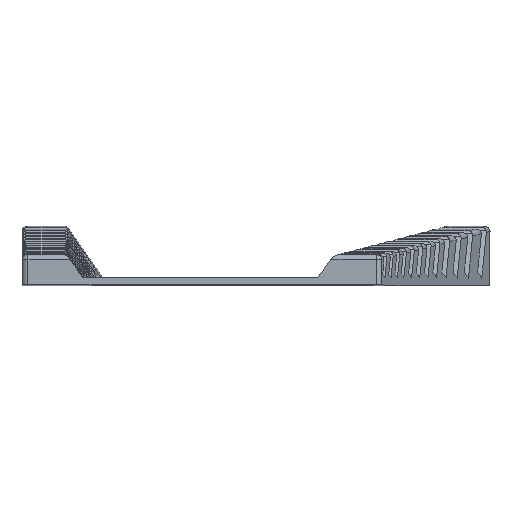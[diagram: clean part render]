
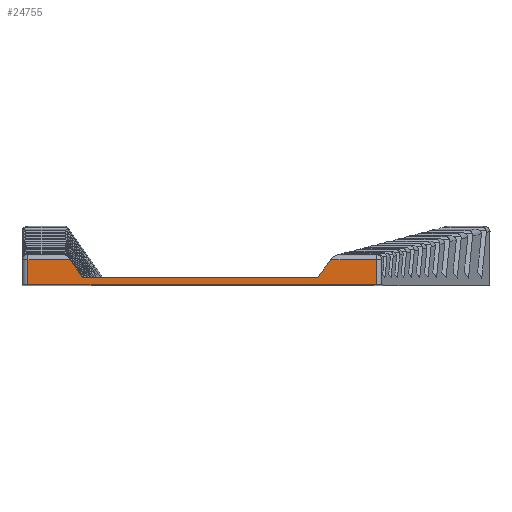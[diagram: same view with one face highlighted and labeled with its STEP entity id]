
A CAD part, top view. The second image highlights one B-rep face of the part: STEP entity #24755.
In plain terms, the highlighted planar face has unit normal (0, 0, 1).
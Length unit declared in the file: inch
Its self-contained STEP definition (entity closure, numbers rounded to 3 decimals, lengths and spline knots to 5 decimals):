
#1913 = CARTESIAN_POINT ( 'NONE',  ( 0., -0.0001, 0. ) ) ;
#2126 = CARTESIAN_POINT ( 'NONE',  ( 1.01195, 0.1249, 0. ) ) ;
#2167 = VERTEX_POINT ( 'NONE', #24743 ) ;
#2178 = LINE ( 'NONE', #3401, #8318 ) ;
#2319 = CARTESIAN_POINT ( 'NONE',  ( 3.12986, -2.32223, 0. ) ) ;
#2574 = LINE ( 'NONE', #8757, #5309 ) ;
#2601 = ORIENTED_EDGE ( 'NONE', *, *, #16054, .F. ) ;
#2779 = EDGE_CURVE ( 'NONE', #12289, #6669, #2178, .T. ) ;
#2903 = LINE ( 'NONE', #7034, #9884 ) ;
#3067 = CARTESIAN_POINT ( 'NONE',  ( 0., 0.1249, 0. ) ) ;
#3401 = CARTESIAN_POINT ( 'NONE',  ( 0.73884, 0.51593, 0. ) ) ;
#3455 = EDGE_CURVE ( 'NONE', #6669, #2167, #23735, .T. ) ;
#4527 = CARTESIAN_POINT ( 'NONE',  ( 0., 0.42546, 0. ) ) ;
#4980 = VERTEX_POINT ( 'NONE', #17688 ) ;
#5309 = VECTOR ( 'NONE', #19067, 39.37008 ) ;
#5968 = VECTOR ( 'NONE', #15945, 39.37008 ) ;
#6043 = DIRECTION ( 'NONE',  ( 0., 0., 1. ) ) ;
#6356 = ORIENTED_EDGE ( 'NONE', *, *, #14365, .T. ) ;
#6669 = VERTEX_POINT ( 'NONE', #2126 ) ;
#6957 = EDGE_CURVE ( 'NONE', #4980, #14312, #2574, .T. ) ;
#7034 = CARTESIAN_POINT ( 'NONE',  ( 0., -0.0001, 0. ) ) ;
#7219 = CARTESIAN_POINT ( 'NONE',  ( 5.22372, 0.42546, 0. ) ) ;
#7851 = CARTESIAN_POINT ( 'NONE',  ( 5.16845, 0.42546, 0. ) ) ;
#8318 = VECTOR ( 'NONE', #10030, 39.37008 ) ;
#8757 = CARTESIAN_POINT ( 'NONE',  ( 5.92325, -0.0001, 0. ) ) ;
#9344 = PLANE ( 'NONE',  #18621 ) ;
#9507 = DIRECTION ( 'NONE',  ( 1., 0., 0. ) ) ;
#9884 = VECTOR ( 'NONE', #9507, 39.37008 ) ;
#10030 = DIRECTION ( 'NONE',  ( 0.573, -0.82, 0. ) ) ;
#11574 = CARTESIAN_POINT ( 'NONE',  ( 5.92325, 0.42546, 0. ) ) ;
#11832 = LINE ( 'NONE', #2319, #5968 ) ;
#11881 = DIRECTION ( 'NONE',  ( 0., -1., 0. ) ) ;
#11998 = VERTEX_POINT ( 'NONE', #16817 ) ;
#12289 = VERTEX_POINT ( 'NONE', #14001 ) ;
#12611 = VECTOR ( 'NONE', #11881, 39.37008 ) ;
#12640 = CARTESIAN_POINT ( 'NONE',  ( 0.1, 0.42546, 0. ) ) ;
#12650 = FACE_OUTER_BOUND ( 'NONE', #19068, .T. ) ;
#14001 = CARTESIAN_POINT ( 'NONE',  ( 0.80203, 0.42546, 0. ) ) ;
#14312 = VERTEX_POINT ( 'NONE', #11574 ) ;
#14365 = EDGE_CURVE ( 'NONE', #11998, #4980, #2903, .T. ) ;
#14924 = ORIENTED_EDGE ( 'NONE', *, *, #18373, .T. ) ;
#15254 = LINE ( 'NONE', #4527, #17574 ) ;
#15809 = ORIENTED_EDGE ( 'NONE', *, *, #6957, .T. ) ;
#15945 = DIRECTION ( 'NONE',  ( 0.596, 0.803, 0. ) ) ;
#16054 = EDGE_CURVE ( 'NONE', #2167, #18085, #11832, .T. ) ;
#16431 = LINE ( 'NONE', #22614, #12611 ) ;
#16442 = VERTEX_POINT ( 'NONE', #12640 ) ;
#16654 = EDGE_CURVE ( 'NONE', #14312, #18085, #24169, .T. ) ;
#16694 = DIRECTION ( 'NONE',  ( 1., 0., 0. ) ) ;
#16817 = CARTESIAN_POINT ( 'NONE',  ( 0.1, -0.0001, 0. ) ) ;
#17574 = VECTOR ( 'NONE', #23112, 39.37008 ) ;
#17688 = CARTESIAN_POINT ( 'NONE',  ( 5.92325, -0.0001, 0. ) ) ;
#18021 = DIRECTION ( 'NONE',  ( 1., 0., 0. ) ) ;
#18085 = VERTEX_POINT ( 'NONE', #7851 ) ;
#18373 = EDGE_CURVE ( 'NONE', #12289, #16442, #15254, .T. ) ;
#18621 = AXIS2_PLACEMENT_3D ( 'NONE', #1913, #6043, #18021 ) ;
#19067 = DIRECTION ( 'NONE',  ( 0., 1., 0. ) ) ;
#19068 = EDGE_LOOP ( 'NONE', ( #6356, #15809, #23815, #2601, #22663, #24245, #14924, #22365 ) ) ;
#20190 = VECTOR ( 'NONE', #21685, 39.37008 ) ;
#21685 = DIRECTION ( 'NONE',  ( -1., 0., 0. ) ) ;
#22365 = ORIENTED_EDGE ( 'NONE', *, *, #25135, .T. ) ;
#22614 = CARTESIAN_POINT ( 'NONE',  ( 0.1, -0.0001, 0. ) ) ;
#22663 = ORIENTED_EDGE ( 'NONE', *, *, #3455, .F. ) ;
#23112 = DIRECTION ( 'NONE',  ( -1., 0., 0. ) ) ;
#23735 = LINE ( 'NONE', #3067, #24427 ) ;
#23815 = ORIENTED_EDGE ( 'NONE', *, *, #16654, .T. ) ;
#24169 = LINE ( 'NONE', #7219, #20190 ) ;
#24245 = ORIENTED_EDGE ( 'NONE', *, *, #2779, .F. ) ;
#24427 = VECTOR ( 'NONE', #16694, 39.37008 ) ;
#24743 = CARTESIAN_POINT ( 'NONE',  ( 4.94546, 0.1249, 0. ) ) ;
#24755 = ADVANCED_FACE ( 'NONE', ( #12650 ), #9344, .T. ) ;
#25135 = EDGE_CURVE ( 'NONE', #16442, #11998, #16431, .T. ) ;
